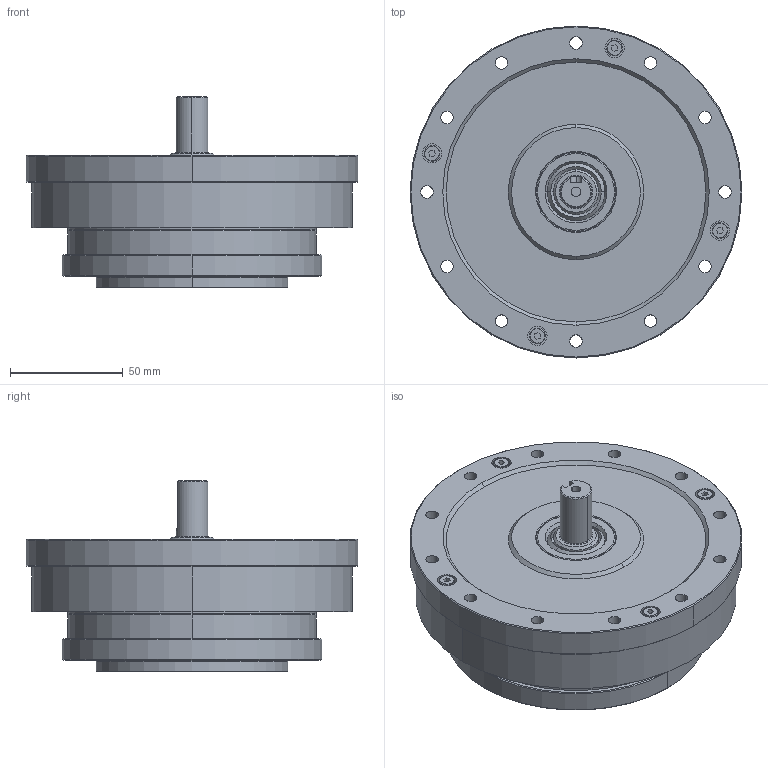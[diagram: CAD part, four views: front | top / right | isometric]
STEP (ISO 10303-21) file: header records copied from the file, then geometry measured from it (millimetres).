
FILE_DESCRIPTION (( 'STEP AP203' ), '1' );
FILE_NAME ('BHS-32-XXX-U-¢ô.STEP', '2019-01-15T05:49:59', ( 'User' ), ( 'China' ), 'SwSTEP 2.0', 'SolidWorks 2015', '' );
FILE_SCHEMA (( 'CONFIG_CONTROL_DESIGN' ));
Length unit declared in the file: millimetre
Products named in the file (1): BHS-32-XXX-U-ｌ
Bounding box: 147 x 147 x 84.5 mm (x, y, z)
Surface area: 75525.3 mm2 (no closed solid volume)
Topology: 0 solids, 14 shells, 272 faces, 745 edges, 500 vertices
Faces by surface type: cylinder 136, plane 82, cone 40, torus 14
Entity records: 8891 total; most frequent: DIRECTION 1695, CARTESIAN_POINT 1556, ORIENTED_EDGE 1266, EDGE_CURVE 745, AXIS2_PLACEMENT_3D 681, VERTEX_POINT 500, CIRCLE 408, EDGE_LOOP 366
